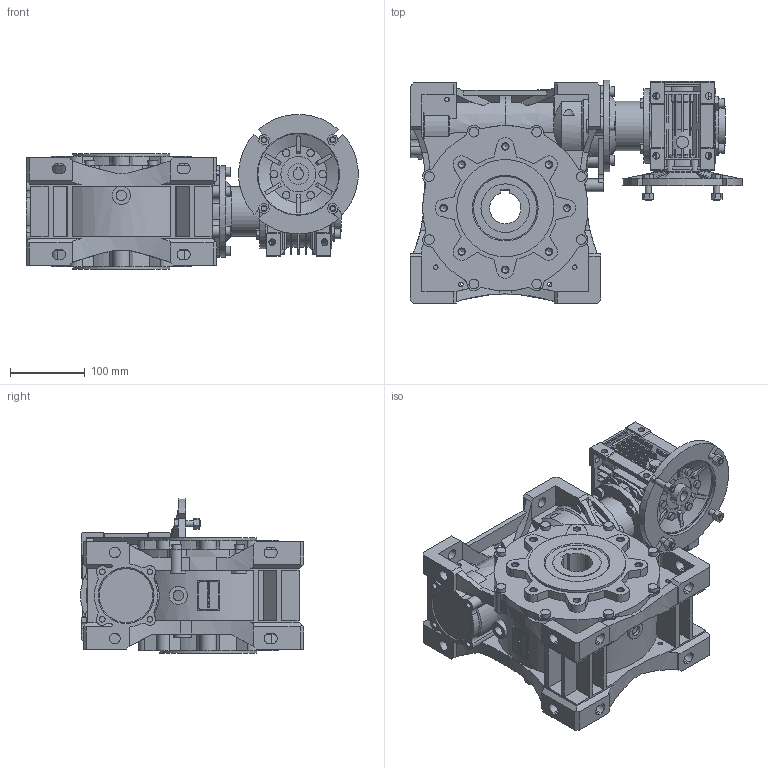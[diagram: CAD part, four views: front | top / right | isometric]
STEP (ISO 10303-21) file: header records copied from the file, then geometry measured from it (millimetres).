
FILE_DESCRIPTION(/* description */ ('STEP AP214'),/* implementation_level */ '2;1');
FILE_NAME(/* name */ 'NMRVP-NMRVP 050-110 100 (10x10) PS1 160x14 25 NO 42 NO NO - - NO - - - NO NO - --(--------)',/* time_stamp */ '2024-10-24T15:52:40+02:00',/* author */ ('License CC BY-ND 4.0'),/* organization */ ('CADENAS'),/* preprocessor_version */ 'ST-DEVELOPER v19.3',/* originating_system */ 'PARTsolutions',/* authorisation */ ' ');
FILE_SCHEMA (('AUTOMOTIVE_DESIGN {1 0 10303 214 3 1 1}'));
Products named in the file (11): NMRVP-NMRVP 050-110 100 (10x10) PS1 160x14 25 NO 42 NO NO - - NO - - 
- NO NO - --(--------); W.110.01.M; 110-42 (155); W.110.14.28.M-p; 050-110-TRA; W.050.01.M; 050-25 (92); VB 050-14 (14)-p; 5071 B5; Corona 50-p; 110-65
Assembly tree (10 placements, depth 2):
  NMRVP-NMRVP 050-110 100 (10x10) PS1 160x14 25 NO 42 NO NO - - NO - - 
- NO NO - --(--------)
    W.110.01.M
    110-42 (155)
    W.110.14.28.M-p
    050-110-TRA
    W.050.01.M
    050-25 (92)
    VB 050-14 (14)-p
    5071 B5
    Corona 50-p
    110-65
Bounding box: 444.27 x 298.5 x 207.27 mm (x, y, z)
Volume: 8857375.4 mm3; surface area: 941075.6 mm2
Topology: 10 solids, 19 shells, 2221 faces, 5935 edges, 3903 vertices
Faces by surface type: plane 1326, cylinder 746, cone 144, torus 5
Full cylindrical faces by diameter (mm): 3.775 x3, 5.55 x4, 6 x10, 6.647 x8, 7.45 x12, 8 x8, 8.376 x16, 8.8 x8, 10 x14, 13 x18, 14 x8, 14.5 x2, 16 x1, 24 x2, 28 x2, 34 x1, 39 x1, 40 x2, 41 x1, 47 x2, 55 x2, 56 x1, 63 x1, 65 x3, 66 x1, 70 x3, 76 x1, 90 x3, 100 x2, 107 x1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
Entity records: 83877 total; most frequent: CARTESIAN_POINT 13155, DIRECTION 11538, ORIENTED_EDGE 11310, EDGE_CURVE 5655, AXIS2_PLACEMENT_3D 4044, VERTEX_POINT 3861, LINE 3450, VECTOR 3450
